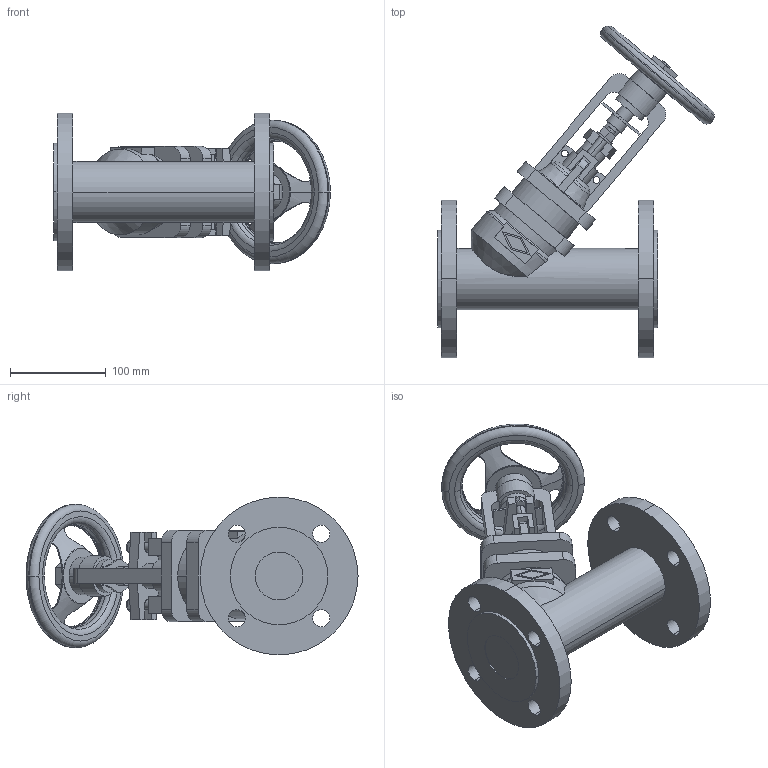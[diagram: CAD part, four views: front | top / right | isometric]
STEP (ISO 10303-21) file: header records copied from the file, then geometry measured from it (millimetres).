
FILE_DESCRIPTION(('OneSpaceDesigner STEP Export'),'2;1');
FILE_NAME('c000004395.stp','2010-05-07T 9:36:46',(''),(''),'OneSpace Designer STEP processor for AP214 (Solid Model)','OneSpace Modeling 15.50B 03-Nov-2007 (C) CoCreate Software GmbH','');
FILE_SCHEMA(('AUTOMOTIVE_DESIGN { 1 0 10303 214 1 1 1 1 }'));
Length unit declared in the file: millimetre
Products named in the file (1): 1
Bounding box: 289.47 x 347.06 x 165 mm (x, y, z)
Volume: 2299131.5 mm3; surface area: 269900.3 mm2
Topology: 1 solids, 1 shells, 300 faces, 805 edges, 529 vertices
Faces by surface type: plane 140, cylinder 111, torus 35, cone 14
Entity records: 11992 total; most frequent: CARTESIAN_POINT 2437, ORIENTED_EDGE 1602, DIRECTION 1309, EDGE_CURVE 801, VERTEX_POINT 525, AXIS2_PLACEMENT_3D 453, VECTOR 403, LINE 403
